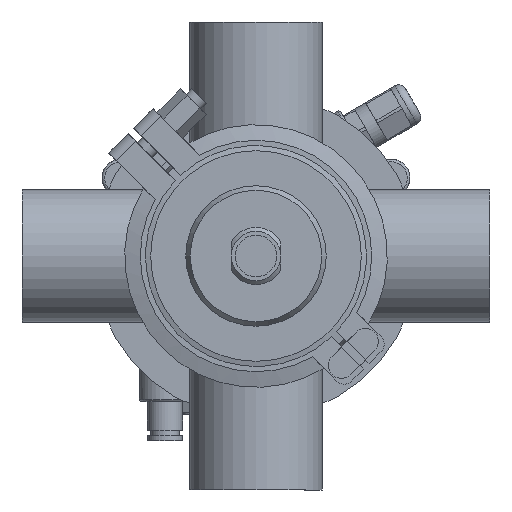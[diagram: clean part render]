
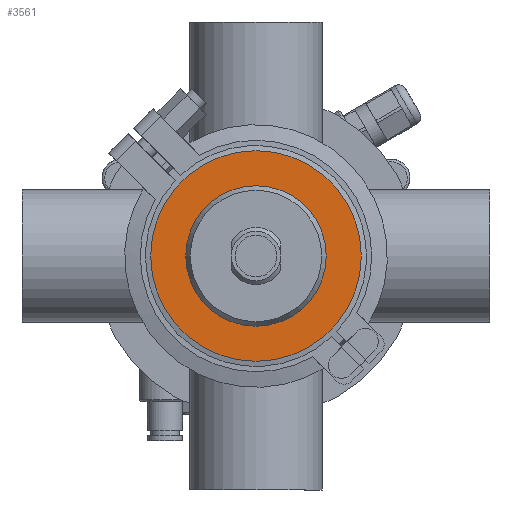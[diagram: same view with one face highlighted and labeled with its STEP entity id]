
A CAD part, front view. The second image highlights one B-rep face of the part: STEP entity #3561.
In plain terms, the highlighted planar face has unit normal (0, -1, 0).
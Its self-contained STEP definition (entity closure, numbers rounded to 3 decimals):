
#1098 = ORIENTED_EDGE ( 'NONE', *, *, #59859, .F. ) ;
#3561 = ADVANCED_FACE ( 'NONE', ( #53353, #24131 ), #57825, .T. ) ;
#4312 = CARTESIAN_POINT ( 'NONE',  ( 0., -13., 0. ) ) ;
#5240 = CARTESIAN_POINT ( 'NONE',  ( 0., -13., 40.5 ) ) ;
#5251 = DIRECTION ( 'NONE',  ( 0., 0., 1. ) ) ;
#5457 = DIRECTION ( 'NONE',  ( 0., -1., 0. ) ) ;
#5766 = DIRECTION ( 'NONE',  ( 0., 0., -1. ) ) ;
#11209 = EDGE_CURVE ( 'NONE', #43953, #43953, #22486, .T. ) ;
#12577 = DIRECTION ( 'NONE',  ( 0., 0., 1. ) ) ;
#20807 = CARTESIAN_POINT ( 'NONE',  ( 0., -13., 27. ) ) ;
#22486 = CIRCLE ( 'NONE', #30595, 27. ) ;
#24131 = FACE_OUTER_BOUND ( 'NONE', #43484, .T. ) ;
#29312 = VERTEX_POINT ( 'NONE', #5240 ) ;
#29958 = DIRECTION ( 'NONE',  ( 0., 1., 0. ) ) ;
#30595 = AXIS2_PLACEMENT_3D ( 'NONE', #4312, #29958, #5251 ) ;
#36606 = ORIENTED_EDGE ( 'NONE', *, *, #11209, .T. ) ;
#43484 = EDGE_LOOP ( 'NONE', ( #1098 ) ) ;
#43953 = VERTEX_POINT ( 'NONE', #20807 ) ;
#45318 = DIRECTION ( 'NONE',  ( 0., 1., 0. ) ) ;
#50919 = EDGE_LOOP ( 'NONE', ( #36606 ) ) ;
#53353 = FACE_BOUND ( 'NONE', #50919, .T. ) ;
#53664 = CARTESIAN_POINT ( 'NONE',  ( -40.5, -13., 0. ) ) ;
#54063 = AXIS2_PLACEMENT_3D ( 'NONE', #53664, #5457, #5766 ) ;
#54409 = AXIS2_PLACEMENT_3D ( 'NONE', #60875, #45318, #12577 ) ;
#57825 = PLANE ( 'NONE',  #54063 ) ;
#58459 = CIRCLE ( 'NONE', #54409, 40.5 ) ;
#59859 = EDGE_CURVE ( 'NONE', #29312, #29312, #58459, .T. ) ;
#60875 = CARTESIAN_POINT ( 'NONE',  ( 0., -13., 0. ) ) ;
